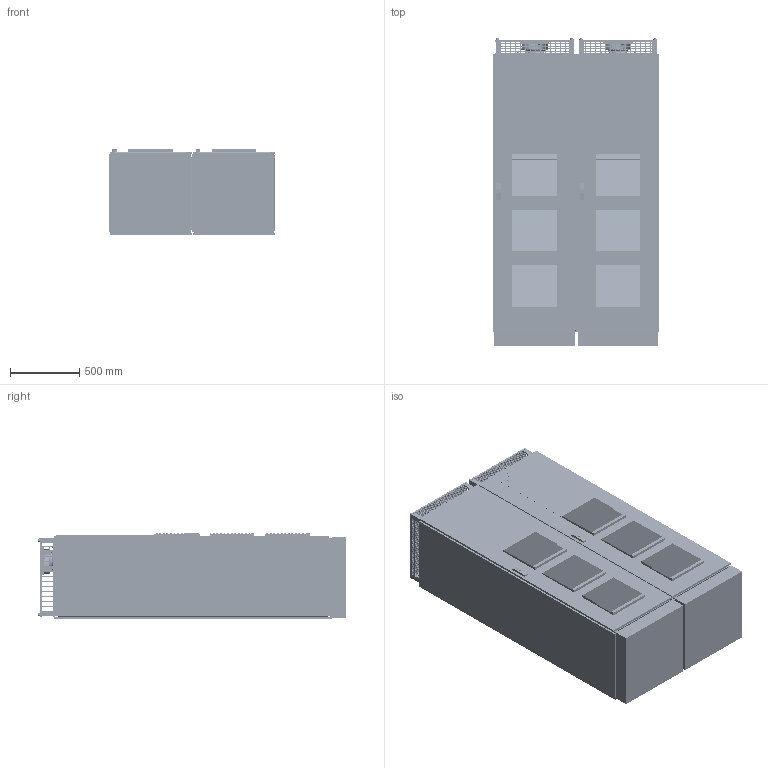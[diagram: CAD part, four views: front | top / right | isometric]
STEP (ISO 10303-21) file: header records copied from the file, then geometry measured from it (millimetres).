
FILE_DESCRIPTION((''),'2;1');
FILE_NAME('MARKETING_ASM','2010-03-03T',('breuilhp'),(''),'PRO/ENGINEER BY PARAMETRIC TECHNOLOGY CORPORATION, 2009460','PRO/ENGINEER BY PARAMETRIC TECHNOLOGY CORPORATION, 2009460','');
FILE_SCHEMA(('CONFIG_CONTROL_DESIGN'));
Products named in the file (38): SOCLE_600X600; CADRE_600X600; POTEAU_2000; TS8_CHASSIS_2000X600X600_ASM; 28-0-00001-44; PORTE_TS8_2000X600_AF0; 8XXX_00_21; 8XXX_00_25; 28-0-00006-44_ASM; 28-A-21048-40; RONDELLE_27X12; PANNEAU_AR_2000X600; PANNEAU_LATTERAL_2000X600; SK3326207; 28-5-21031-40; M6X15; M4X10; 28-5-21031-40_ASM; 28-0-00015-40; RIVET_POP_D4; 28-0-00016-26_ASM; 16043-A; 28-0-00016-40; 19008; WAGO_261-104; ECOFIT_D27-A2; M8; M4; 28-0-10001-60; 91902; M6; VIS004VS033; 28-5-21013-26_ASM; VISH_M12X30; ARMOIRE_PRINCIPALE_MARKETING_ASM; SOCLE_MARKETING_600X600; ETIQUETTE_LEROY; MARKETING_ASM
Assembly tree (77 placements, depth 6):
  MARKETING_ASM
    ARMOIRE_PRINCIPALE_MARKETING_ASM  x2
      TS8_CHASSIS_2000X600X600_ASM
        SOCLE_600X600
        CADRE_600X600  x2
        POTEAU_2000  x4
      28-0-00001-44
      28-0-00006-44_ASM
        PORTE_TS8_2000X600_AF0
        8XXX_00_21  x4
        8XXX_00_25
      28-A-21048-40
      RONDELLE_27X12
      PANNEAU_AR_2000X600
      PANNEAU_LATTERAL_2000X600
      SK3326207
      28-5-21013-26_ASM
        28-0-00016-26_ASM
          28-5-21031-40_ASM
            28-5-21031-40
            M6X15  x11
            M4X10  x4
          28-0-00015-40
          RIVET_POP_D4  x2
        16043-A
        28-0-00016-40
        19008
        WAGO_261-104
        ECOFIT_D27-A2
        M8
        M4  x4
        28-0-10001-60
        91902
        M6  x4
        VIS004VS033  x4
      VISH_M12X30
    SOCLE_MARKETING_600X600  x2
    ETIQUETTE_LEROY
Bounding box: 1201.5 x 2212.3 x 622.5 mm (x, y, z)
Volume: 114389422.1 mm3; surface area: 29336514.7 mm2
Topology: 147 solids, 181 shells, 37035 faces, 91138 edges, 54692 vertices
Faces by surface type: plane 22513, cylinder 13128, cone 578, extrusion 378, torus 350, bspline 60, sphere 24, revolution 4
Entity records: 359548 total; most frequent: CARTESIAN_POINT 81669, ORIENTED_EDGE 58174, DIRECTION 53100, EDGE_CURVE 29144, VECTOR 22954, LINE 22765, VERTEX_POINT 18574, AXIS2_PLACEMENT_3D 15072
